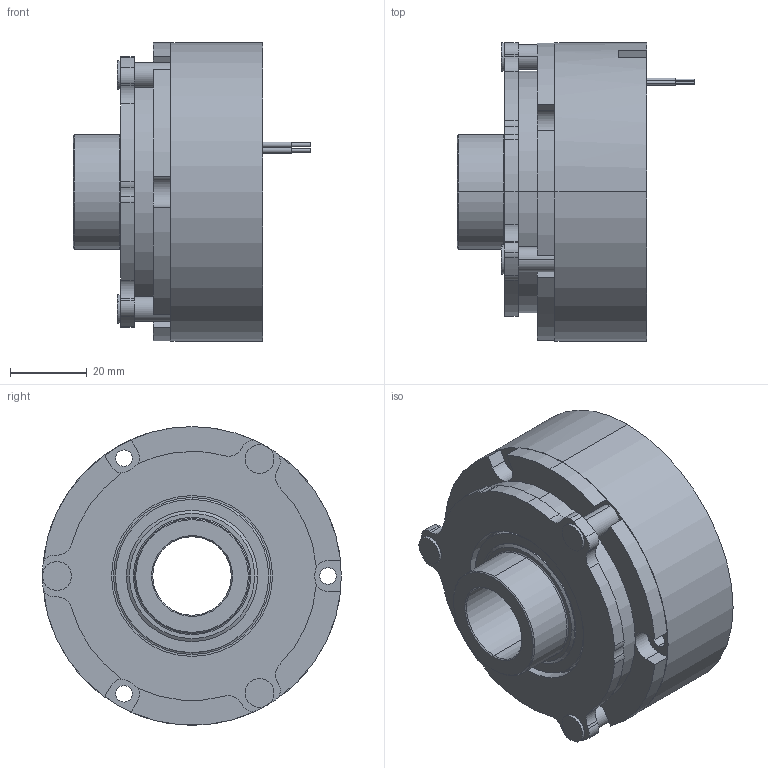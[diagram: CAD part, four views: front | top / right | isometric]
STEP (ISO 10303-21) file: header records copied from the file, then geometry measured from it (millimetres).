
FILE_DESCRIPTION (( 'STEP AP203' ), '1' );
FILE_NAME ('KS_10008A00_00473873.STEP', '2017-11-21T12:52:33', ( '' ), ( '' ), 'SwSTEP 2.0', 'SolidWorks 2015', '' );
FILE_SCHEMA (( 'CONFIG_CONTROL_DESIGN' ));
Length unit declared in the file: millimetre
Products named in the file (1): KS_10008A00_00473873
Bounding box: 62.02 x 78.02 x 78 mm (x, y, z)
Volume: 152178.5 mm3; surface area: 34178.6 mm2
Topology: 1 solids, 1 shells, 167 faces, 417 edges, 271 vertices
Faces by surface type: cylinder 104, plane 45, cone 12, torus 4, bspline 2
Entity records: 5230 total; most frequent: DIRECTION 985, CARTESIAN_POINT 912, ORIENTED_EDGE 834, EDGE_CURVE 417, AXIS2_PLACEMENT_3D 404, VERTEX_POINT 271, CIRCLE 238, EDGE_LOOP 200
